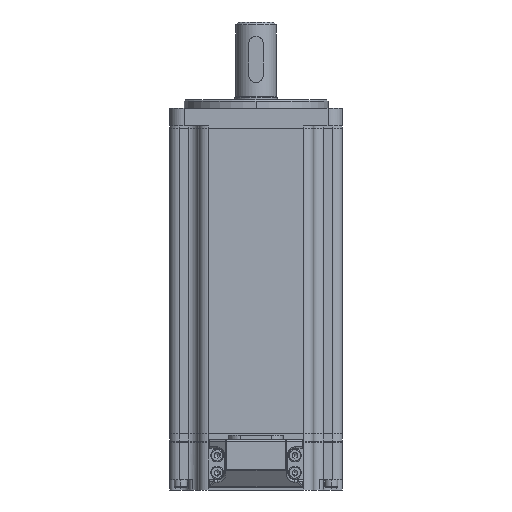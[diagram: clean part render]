
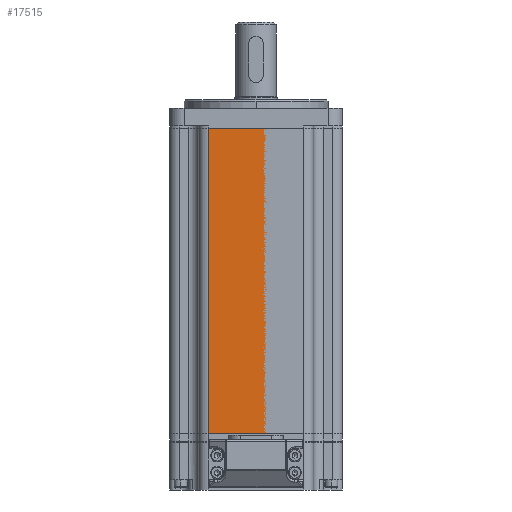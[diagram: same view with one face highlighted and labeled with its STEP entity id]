
A CAD part, left-side view. The second image highlights one B-rep face of the part: STEP entity #17515.
In plain terms, the highlighted planar face has unit normal (-1, 0, 0).
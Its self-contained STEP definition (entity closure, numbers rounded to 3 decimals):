
#1612 = VERTEX_POINT ( 'NONE', #5885 ) ;
#2758 = CARTESIAN_POINT ( 'NONE',  ( -30., -16.5, -107. ) ) ;
#3222 = CARTESIAN_POINT ( 'NONE',  ( -30., 20., -107. ) ) ;
#3506 = DIRECTION ( 'NONE',  ( 0., 0., -1. ) ) ;
#5650 = ORIENTED_EDGE ( 'NONE', *, *, #34292, .F. ) ;
#5885 = CARTESIAN_POINT ( 'NONE',  ( -30., 16.5, -107. ) ) ;
#9553 = VECTOR ( 'NONE', #3506, 1000. ) ;
#10199 = DIRECTION ( 'NONE',  ( 0., 0., 1. ) ) ;
#10668 = PLANE ( 'NONE',  #40987 ) ;
#12775 = EDGE_LOOP ( 'NONE', ( #18623, #19134, #5650, #22798 ) ) ;
#12796 = VERTEX_POINT ( 'NONE', #24706 ) ;
#14122 = CARTESIAN_POINT ( 'NONE',  ( -30., 20., -107. ) ) ;
#14398 = DIRECTION ( 'NONE',  ( 1., 0., 0. ) ) ;
#15278 = FACE_OUTER_BOUND ( 'NONE', #12775, .T. ) ;
#15743 = LINE ( 'NONE', #14122, #34384 ) ;
#17515 = ADVANCED_FACE ( 'NONE', ( #15278 ), #10668, .F. ) ;
#17860 = DIRECTION ( 'NONE',  ( 0., 1., 0. ) ) ;
#18623 = ORIENTED_EDGE ( 'NONE', *, *, #25282, .T. ) ;
#19134 = ORIENTED_EDGE ( 'NONE', *, *, #21613, .T. ) ;
#19453 = LINE ( 'NONE', #29498, #9553 ) ;
#21613 = EDGE_CURVE ( 'NONE', #31260, #1612, #19453, .T. ) ;
#22798 = ORIENTED_EDGE ( 'NONE', *, *, #29818, .T. ) ;
#23198 = VECTOR ( 'NONE', #10199, 1000. ) ;
#23323 = VERTEX_POINT ( 'NONE', #45882 ) ;
#24706 = CARTESIAN_POINT ( 'NONE',  ( -30., -16.5, -107. ) ) ;
#25282 = EDGE_CURVE ( 'NONE', #23323, #31260, #45102, .T. ) ;
#29498 = CARTESIAN_POINT ( 'NONE',  ( -30., 16.5, -107. ) ) ;
#29818 = EDGE_CURVE ( 'NONE', #12796, #23323, #34225, .T. ) ;
#31260 = VERTEX_POINT ( 'NONE', #41547 ) ;
#34225 = LINE ( 'NONE', #2758, #23198 ) ;
#34292 = EDGE_CURVE ( 'NONE', #12796, #1612, #15743, .T. ) ;
#34384 = VECTOR ( 'NONE', #17860, 1000. ) ;
#35181 = VECTOR ( 'NONE', #46413, 1000. ) ;
#35189 = CARTESIAN_POINT ( 'NONE',  ( -30., 20., -1. ) ) ;
#40414 = DIRECTION ( 'NONE',  ( 0., 0., 1. ) ) ;
#40987 = AXIS2_PLACEMENT_3D ( 'NONE', #3222, #14398, #40414 ) ;
#41547 = CARTESIAN_POINT ( 'NONE',  ( -30., 16.5, -1. ) ) ;
#45102 = LINE ( 'NONE', #35189, #35181 ) ;
#45882 = CARTESIAN_POINT ( 'NONE',  ( -30., -16.5, -1. ) ) ;
#46413 = DIRECTION ( 'NONE',  ( 0., 1., 0. ) ) ;
